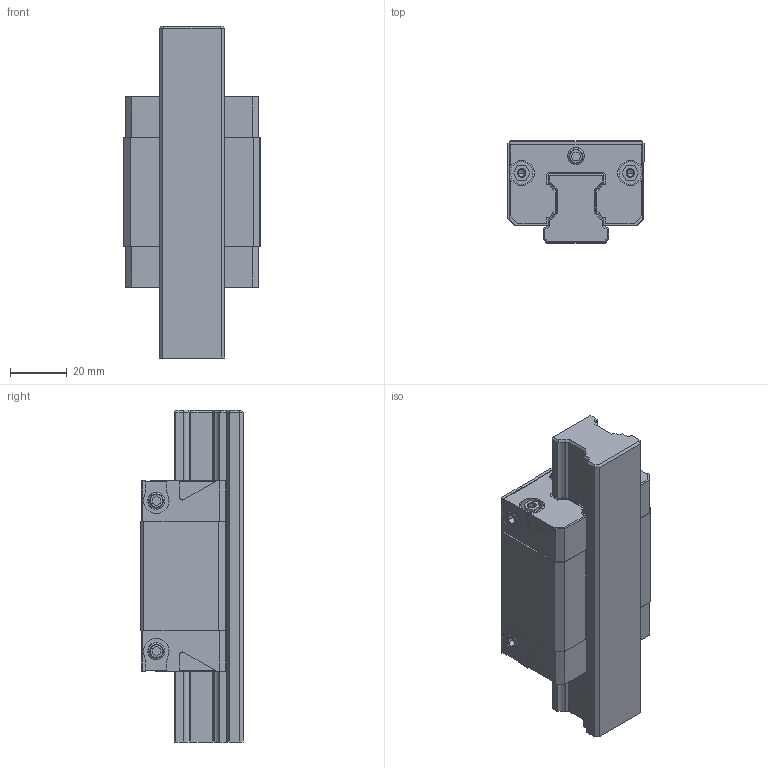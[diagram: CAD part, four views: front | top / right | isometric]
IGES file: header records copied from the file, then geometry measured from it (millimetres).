
Start section: 3D InterOp IGES (v. 2019 1.0.2), Spatial Corp. Copyright (c) 1999-2017.
Global section: file name: R1662_size25.igs; native system: Spatial Corp.; preprocessor: 3D InterOp GENERIC/IGES 3.0; author: Noname; organization: Noname; date: 20220629.125014; units: millimetre
Bounding box: 48 x 36 x 117 mm (x, y, z)
Surface area: 38204.4 mm2 (no closed solid volume)
Topology: 0 solids, 0 shells, 481 faces, 2502 edges, 2478 vertices
Faces by surface type: extrusion 288, revolution 193
